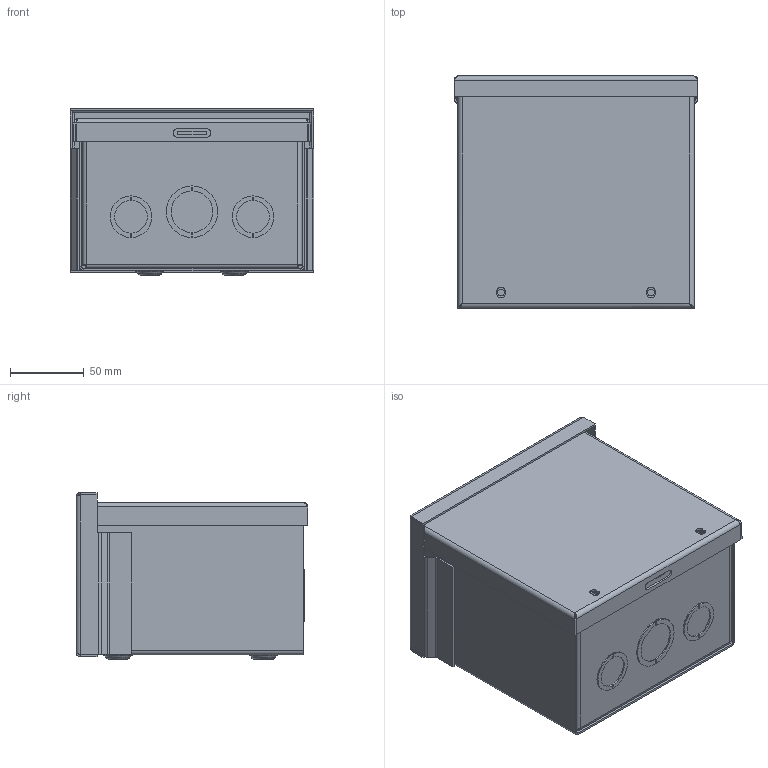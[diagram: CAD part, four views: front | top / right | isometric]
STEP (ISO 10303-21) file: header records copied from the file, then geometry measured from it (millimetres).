
FILE_DESCRIPTION (( 'STEP AP203' ), '1' );
FILE_NAME ('a6r64.STEP', '2019-09-06T13:42:29', ( '' ), ( '' ), 'SwSTEP 2.0', 'SolidWorks 2016', '' );
FILE_SCHEMA (( 'CONFIG_CONTROL_DESIGN' ));
Length unit declared in the file: inch
Products named in the file (9): 87921482; 43398002_COVER ,6 X 6; A60 GALV; a6r64; 87575328_BOTTOM, 6 X 4 ; A60 GALV ; 99401048_SCR,PNHDSTC;10-32 X 50 PLT; 23157001; 89062477_WELDMENT,BODY,6X6X4;A60 GALV; 78124001; 89062044_BODY,6 X 6 X 4 ;A60 GALV
Assembly tree (10 placements, depth 3):
  a6r64
    89062477_WELDMENT,BODY,6X6X4;A60 GALV
      89062044_BODY,6 X 6 X 4 ;A60 GALV
      87921482
      87575328_BOTTOM, 6 X 4 ; A60 GALV 
    43398002_COVER ,6 X 6; A60 GALV
    23157001
      99401048_SCR,PNHDSTC;10-32 X 50 PLT  x3
      78124001
Bounding box: 165.1 x 157.1 x 113.03 mm (x, y, z)
Volume: 194016.3 mm3; surface area: 282998.6 mm2
Topology: 8 solids, 8 shells, 427 faces, 957 edges, 569 vertices
Faces by surface type: plane 229, cylinder 110, torus 38, bspline 22, cone 16, sphere 12
Entity records: 12574 total; most frequent: CARTESIAN_POINT 2805, DIRECTION 1858, ORIENTED_EDGE 1758, EDGE_CURVE 879, AXIS2_PLACEMENT_3D 664, VECTOR 530, LINE 530, VERTEX_POINT 519
